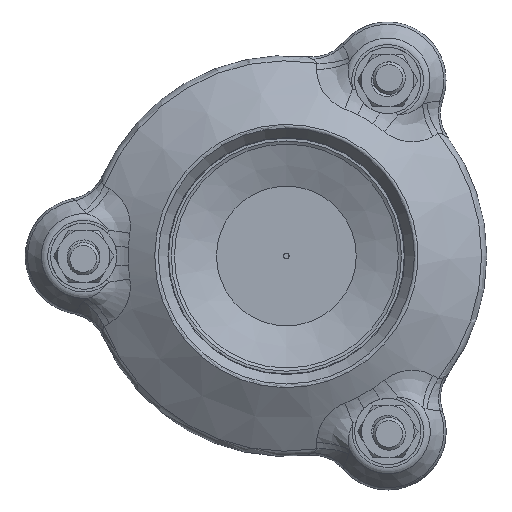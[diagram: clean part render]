
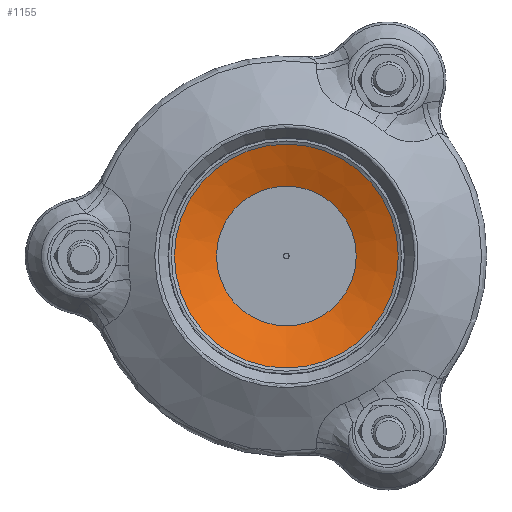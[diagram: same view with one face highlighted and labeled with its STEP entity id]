
A CAD part, front view. The second image highlights one B-rep face of the part: STEP entity #1155.
In plain terms, the highlighted conical face has half-angle 68.366 degrees and reference radius 4.263 mm.
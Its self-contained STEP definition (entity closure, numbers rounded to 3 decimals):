
#1030=CARTESIAN_POINT('',(0.,75.867,-40.602));
#1031=VERTEX_POINT('',#1030);
#1032=CARTESIAN_POINT('',(0.0,75.867,0.0));
#1033=DIRECTION('',(0.0,1.0,0.0));
#1034=DIRECTION('',(-1.0,0.0,0.0));
#1035=AXIS2_PLACEMENT_3D('',#1032,#1033,#1034);
#1036=CIRCLE('',#1035,40.602);
#1037=EDGE_CURVE('',#1031,#1031,#1036,.T.);
#1136=CARTESIAN_POINT('',(0.,90.279,0.));
#1137=DIRECTION('',(0.0,-1.0,0.0));
#1138=DIRECTION('',(0.0,0.0,-1.0));
#1139=AXIS2_PLACEMENT_3D('',#1136,#1137,#1138);
#1140=CONICAL_SURFACE('',#1139,4.263,68.366);
#1141=ORIENTED_EDGE('',*,*,#1037,.F.);
#1142=EDGE_LOOP('',(#1141));
#1143=FACE_OUTER_BOUND('',#1142,.T.);
#1144=CARTESIAN_POINT('',(25.335,81.922,0.));
#1145=VERTEX_POINT('',#1144);
#1146=CARTESIAN_POINT('',(0.0,81.922,0.0));
#1147=DIRECTION('',(0.0,1.0,0.0));
#1148=DIRECTION('',(-1.0,0.0,0.0));
#1149=AXIS2_PLACEMENT_3D('',#1146,#1147,#1148);
#1150=CIRCLE('',#1149,25.335);
#1151=EDGE_CURVE('',#1145,#1145,#1150,.T.);
#1152=ORIENTED_EDGE('',*,*,#1151,.T.);
#1153=EDGE_LOOP('',(#1152));
#1154=FACE_BOUND('',#1153,.T.);
#1155=ADVANCED_FACE('',(#1143,#1154),#1140,.F.);
